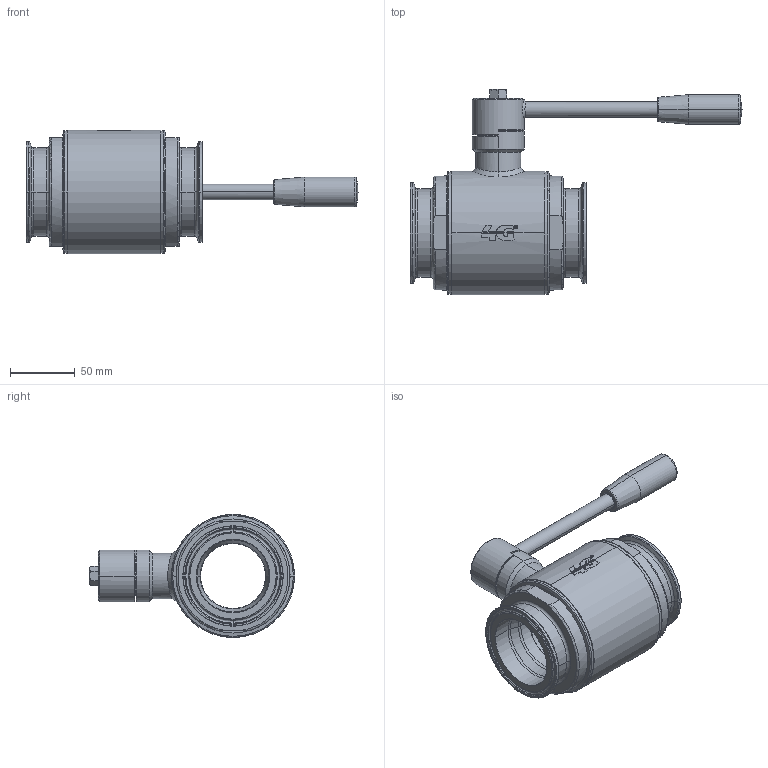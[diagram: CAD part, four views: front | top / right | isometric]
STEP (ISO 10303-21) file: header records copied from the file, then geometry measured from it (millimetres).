
FILE_DESCRIPTION((''),'2;1');
FILE_NAME('13013064110_SW0001','2025-04-11T11:10:51',('alfio.taboni'),('CDM Tecnoconsulting'),'CREO PARAMETRIC BY PTC INC, 2024063','CREO PARAMETRIC BY PTC INC, 2024063','');
FILE_SCHEMA(('CONFIG_CONTROL_DESIGN','SHAPE_APPEARANCE_LAYERS_GROUPS'));
Length unit declared in the file: millimetre
Products named in the file (1): 13013064110_SW0001
Bounding box: 256 x 158.25 x 95 mm (x, y, z)
Volume: 624772.3 mm3; surface area: 131190.9 mm2
Topology: 1 solids, 1 shells, 835 faces, 2246 edges, 1419 vertices
Faces by surface type: plane 365, cylinder 145, extrusion 111, cone 83, torus 74, bspline 43, sphere 14
Entity records: 38780 total; most frequent: CARTESIAN_POINT 16244, ORIENTED_EDGE 4456, DIRECTION 3679, EDGE_CURVE 2228, VERTEX_POINT 1419, VECTOR 1263, AXIS2_PLACEMENT_3D 1208, LINE 1152
